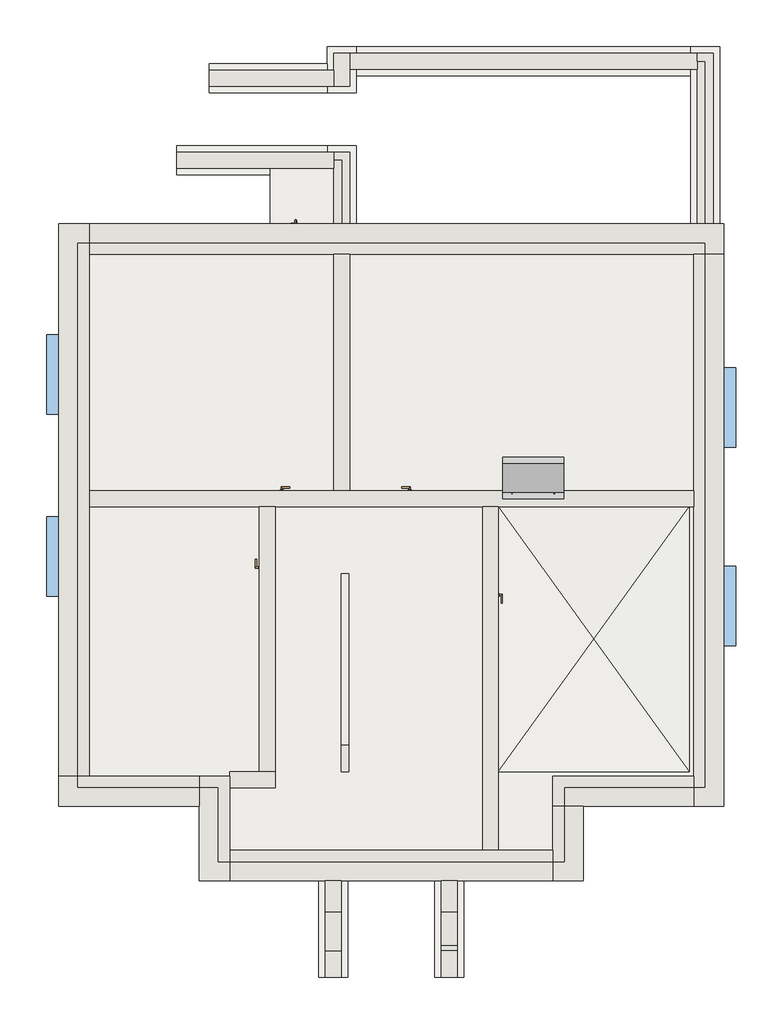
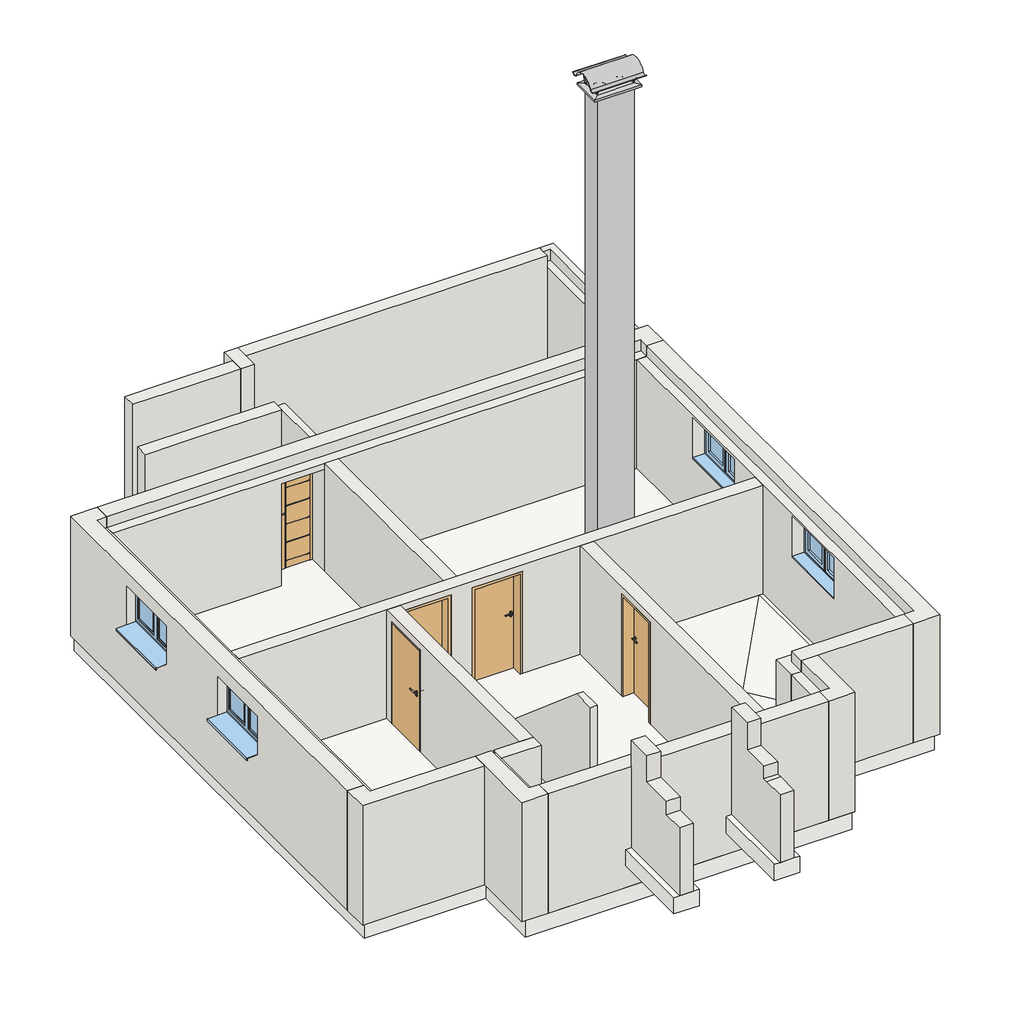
# Not in any storey: 22 walls, 8 footings, 5 doors, 4 windows, 1 proxy, 1 slab.
"""IFC4 building model written with IfcOpenShell, lengths in millimetres."""

from ifc_helpers import new_model, si_unit, frame, origin, place, context, project, spatial, polyline, outline, extrude, faceted_brep, transform, mapped, element, save
from components import proxy_360_x_650_x_6000_d_140_bfd82147, door_1b2f5746, door_21564633, ml_760_x_1886_faf6ffda, fe_2_tlg_konfigurierbar_1260_x_760_2a4c1234

model = new_model("IFC4")

# Units and contexts
model_context = context("Model", 3, world=origin())
ifc_project = project(units=[si_unit("LENGTHUNIT", "METRE", prefix="MILLI")], contexts=[model_context])

# Site, building
site = spatial("IfcSite", under=ifc_project)
building = spatial("IfcBuilding", under=site)

# Proxy
placement = place(None, origin())
proxy_360_x_650_x_6000_d_140_shape = proxy_360_x_650_x_6000_d_140_bfd82147(model_context)
element("IfcBuildingElementProxy", 1, Name="Kamin-03 zweizügig : 360 x 650 x 6000 D 140", ObjectType="Kamin-03 zweizügig : 360 x 650 x 6000 D 140", at=placement, inside=building, context=model_context, shape_type="MappedRepresentation", body=[
    mapped(proxy_360_x_650_x_6000_d_140_shape, transform((4890.0, 5931.2341615, -1200.0), x_axis=(1.0, 0.0, 0.0), y_axis=(0.0, 1.0, 0.0), z_axis=(0.0, 0.0, 1.0))),
])

# Doors
door_shape = door_1b2f5746(model_context)
element("IfcDoor", 2, ObjectType="TU DF 1 - Rahmenstock flächenbündig variabel : ML - H - 885 x 1885", at=placement, inside=building, context=model_context, shape_type="MappedRepresentation", body=[
    mapped(door_shape, transform((2682.5, 5620.0, -1200.0), x_axis=(-1.0, 0.0, 0.0), y_axis=(0.0, -1.0, 0.0), z_axis=(0.0, 0.0, 1.0))),
])
door_2_shape = door_21564633(model_context)
element("IfcDoor", 3, ObjectType="TU DF 1 - Rahmenstock flächenbündig variabel : ML - H - 885 x 1885", at=placement, inside=building, context=model_context, shape_type="MappedRepresentation", body=[
    mapped(door_2_shape, transform((4245.0, 3817.5, -1200.0), x_axis=(0.0, -1.0, 0.0), y_axis=(1.0, 0.0, 0.0), z_axis=(0.0, 0.0, 1.0))),
])
element("IfcDoor", 4, ObjectType="TU DF 1 - Rahmenstock flächenbündig variabel : ML - H - 885 x 1885", at=placement, inside=building, context=model_context, shape_type="MappedRepresentation", body=[
    mapped(door_2_shape, transform((870.0, 4922.5, -1200.0), x_axis=(0.0, 1.0, 0.0), y_axis=(-1.0, 0.0, 0.0), z_axis=(0.0, 0.0, 1.0))),
])
element("IfcDoor", 5, ObjectType="TU DF 1 - Rahmenstock flächenbündig variabel : ML - H - 885 x 1885", at=placement, inside=building, context=model_context, shape_type="MappedRepresentation", body=[
    mapped(door_2_shape, transform((1432.5, 5620.0, -1200.0), x_axis=(1.0, 0.0, 0.0), y_axis=(0.0, 1.0, 0.0), z_axis=(0.0, 0.0, 1.0))),
])
ml_760_x_1886_shape = ml_760_x_1886_faf6ffda(model_context)
element("IfcDoor", 6, ObjectType="TU DF 1 - Haustüre : ML -760 x 1886", at=placement, inside=building, context=model_context, shape_type="MappedRepresentation", body=[
    mapped(ml_760_x_1886_shape, transform((1495.0, 9545.0, -1200.0), x_axis=(-1.0, 0.0, 0.0), y_axis=(0.0, -1.0, 0.0), z_axis=(0.0, 0.0, 1.0))),
])

# Footings
element("IfcFooting", 7, ObjectType="STB 440 x 300", at=placement, inside=building, context=model_context, shape_type="Brep", body=[
    faceted_brep([(7715.0, 9715.0, -1200.0), (7275.0, 9715.0, -1200.0), (7275.0, 9715.0, -1500.0), (7715.0, 9715.0, -1500.0), (7715.0, 9775.0, -1200.0), (7715.0, 12455.0, -1200.0), (7275.0, 12455.0, -1200.0), (7275.0, 12015.0, -1200.0), (7275.0, 9775.0, -1200.0), (7275.0, 12455.0, -1500.0), (7275.0, 12015.0, -1500.0), (7275.0, 9775.0, -1500.0), (7715.0, 12455.0, -1500.0)], [[[0, 1, 2, 3]], [[0, 4, 5, 6, 7, 8, 1]], [[2, 1, 8, 7, 6, 9, 10, 11]], [[3, 2, 11, 10, 9, 12]], [[0, 3, 12, 5, 4]], [[6, 5, 12, 9]]]),
])
element("IfcFooting", 8, ObjectType="STB 440 x 300", at=placement, inside=building, context=model_context, shape_type="Brep", body=[
    faceted_brep([(2215.0, 9775.0, -1200.0), (2115.0, 9775.0, -1200.0), (1775.0, 9775.0, -1200.0), (1775.0, 9775.0, -1500.0), (2215.0, 9775.0, -1500.0), (2215.0, 10955.0, -1200.0), (1775.0, 10955.0, -1200.0), (1775.0, 10515.0, -1200.0), (1775.0, 10955.0, -1500.0), (1775.0, 10515.0, -1500.0), (2215.0, 10955.0, -1500.0)], [[[0, 1, 2, 3, 4]], [[0, 5, 6, 7, 2, 1]], [[3, 2, 7, 6, 8, 9]], [[4, 3, 9, 8, 10]], [[0, 4, 10, 5]], [[6, 5, 10, 8]]]),
])
element("IfcFooting", 9, ObjectType="STB 440 x 300", at=placement, inside=building, context=model_context, shape_type="Brep", body=[
    faceted_brep([(-500.0, 10515.0, -1500.0), (-500.0, 10515.0, -1200.0), (-500.0, 10615.0, -1200.0), (-500.0, 10855.0, -1200.0), (-500.0, 10955.0, -1200.0), (-500.0, 10955.0, -1500.0), (915.0, 10515.0, -1200.0), (1775.0, 10515.0, -1200.0), (1775.0, 10955.0, -1200.0), (915.0, 10515.0, -1500.0), (1775.0, 10515.0, -1500.0), (1775.0, 10955.0, -1500.0)], [[[0, 1, 2, 3, 4, 5]], [[4, 3, 2, 1, 6, 7, 8]], [[1, 0, 9, 10, 7, 6]], [[0, 5, 11, 10, 9]], [[5, 4, 8, 11]], [[8, 7, 10, 11]]]),
])
element("IfcFooting", 10, ObjectType="STB 440 x 300", at=placement, inside=building, context=model_context, shape_type="Brep", body=[
    faceted_brep([(1650.0, -160.0, -500.0), (1750.0, -160.0, -500.0), (1990.0, -160.0, -500.0), (2090.0, -160.0, -500.0), (2090.0, -160.0, -800.0), (1650.0, -160.0, -800.0), (2090.0, -1620.0, -500.0), (1990.0, -1620.0, -500.0), (1750.0, -1620.0, -500.0), (1650.0, -1620.0, -500.0), (1650.0, -1620.0, -800.0), (2090.0, -1620.0, -800.0)], [[[0, 1, 2, 3, 4, 5]], [[6, 7, 8, 9, 10, 11]], [[0, 9, 8, 7, 6, 3, 2, 1]], [[4, 3, 6, 11]], [[5, 4, 11, 10]], [[0, 5, 10, 9]]]),
])
element("IfcFooting", 11, ObjectType="STB 440 x 300", at=placement, inside=building, context=model_context, shape_type="Brep", body=[
    faceted_brep([(1775.0, 12455.0, -1200.0), (1775.0, 12195.0, -1200.0), (1775.0, 11755.0, -1200.0), (2215.0, 11755.0, -1200.0), (2215.0, 12015.0, -1200.0), (2215.0, 12455.0, -1200.0), (2215.0, 12455.0, -1500.0), (2215.0, 11755.0, -1500.0), (2215.0, 12015.0, -1500.0), (1775.0, 12455.0, -1500.0), (1775.0, 11755.0, -1500.0), (1775.0, 12195.0, -1500.0)], [[[0, 1, 2, 3, 4, 5]], [[6, 5, 4, 3, 7, 8]], [[9, 6, 8, 7, 10, 11]], [[0, 9, 11, 10, 2, 1]], [[3, 2, 10, 7]], [[0, 5, 6, 9]]]),
])
element("IfcFooting", 12, ObjectType="STB 440 x 300", at=placement, inside=building, context=model_context, shape_type="Brep", body=[
    faceted_brep([(-5.0, 11755.0, -1500.0), (-5.0, 11755.0, -1200.0), (-5.0, 11855.0, -1200.0), (-5.0, 12095.0, -1200.0), (-5.0, 12195.0, -1200.0), (-5.0, 12195.0, -1500.0), (1775.0, 11755.0, -1200.0), (1775.0, 12195.0, -1200.0), (1775.0, 11755.0, -1500.0), (1775.0, 12195.0, -1500.0)], [[[0, 1, 2, 3, 4, 5]], [[4, 3, 2, 1, 6, 7]], [[1, 0, 8, 6]], [[0, 5, 9, 8]], [[5, 4, 7, 9]], [[7, 6, 8, 9]]]),
])
element("IfcFooting", 13, ObjectType="STB 440 x 300", at=placement, inside=building, context=model_context, shape_type="SweptSolid", body=[
    extrude(outline(polyline([(7275.0, 12455.0), (7275.0, 12015.0), (2215.0, 12015.0), (2215.0, 12455.0), (7275.0, 12455.0)])), frame((0.0, 0.0, -1500.0), z_axis=(0.0, 0.0, 1.0), x_axis=(1.0, 0.0, 0.0)), (0.0, 0.0, 1.0), 300.0),
])
element("IfcFooting", 14, ObjectType="STB 440 x 300", at=placement, inside=building, context=model_context, shape_type="Brep", body=[
    faceted_brep([(3400.0, -160.0, -500.0), (3500.0, -160.0, -500.0), (3740.0, -160.0, -500.0), (3840.0, -160.0, -500.0), (3840.0, -160.0, -800.0), (3400.0, -160.0, -800.0), (3840.0, -1620.0, -500.0), (3740.0, -1620.0, -500.0), (3500.0, -1620.0, -500.0), (3400.0, -1620.0, -500.0), (3400.0, -1620.0, -800.0), (3840.0, -1620.0, -800.0)], [[[0, 1, 2, 3, 4, 5]], [[6, 7, 8, 9, 10, 11]], [[0, 9, 8, 7, 6, 3, 2, 1]], [[4, 3, 6, 11]], [[5, 4, 11, 10]], [[0, 5, 10, 9]]]),
])

# Slab
element("IfcSlab", 15, ObjectType="STB 300", at=placement, inside=building, context=model_context, shape_type="Brep", body=[
    faceted_brep([(-2225.0, 9775.0, -1500.0), (915.0, 9775.0, -1500.0), (915.0, 10615.0, -1500.0), (1875.0, 10615.0, -1500.0), (1875.0, 9775.0, -1500.0), (7715.0, 9775.0, -1500.0), (7715.0, 1025.0, -1500.0), (5590.0, 1025.0, -1500.0), (5590.0, -160.0, -1500.0), (-100.0, -160.0, -1500.0), (-100.0, 1025.0, -1500.0), (-2225.0, 1025.0, -1500.0), (-2225.0, 9775.0, -1200.0), (915.0, 9775.0, -1200.0), (7715.0, 9775.0, -1200.0), (7715.0, 1025.0, -1200.0), (5590.0, 1025.0, -1200.0), (5590.0, -160.0, -1200.0), (-100.0, -160.0, -1200.0), (-100.0, 1025.0, -1200.0), (-2225.0, 1025.0, -1200.0), (1875.0, 9775.0, -1200.0), (1875.0, 10615.0, -1200.0), (915.0, 10615.0, -1200.0), (7250.0, 5500.0, -1200.0), (7250.0, 1490.0, -1200.0), (4365.0, 1490.0, -1200.0), (4365.0, 5500.0, -1200.0), (5807.5, 3495.0, -1260.0)], [[[0, 1, 2, 3, 4, 5, 6, 7, 8, 9, 10, 11]], [[1, 0, 12, 13]], [[6, 5, 14, 15]], [[7, 6, 15, 16]], [[8, 7, 16, 17]], [[9, 8, 17, 18]], [[10, 9, 18, 19]], [[11, 10, 19, 20]], [[0, 11, 20, 12]], [[20, 19, 18, 17, 16, 15, 14, 21, 22, 23, 13, 12], [24, 25, 26, 27]], [[26, 25, 28]], [[26, 28, 27]], [[25, 24, 28]], [[24, 27, 28]], [[2, 1, 13, 23]], [[3, 2, 23, 22]], [[4, 3, 22, 21]], [[5, 4, 21, 14]]]),
])

# Walls
element("IfcWall", 16, ObjectType="Ziegel+WD hart 300+160", at=placement, inside=building, context=model_context, shape_type="Brep", body=[
    faceted_brep([(300.0, -160.0, -1200.0), (300.0, 300.0, -1200.0), (300.0, 1250.0, -1200.0), (300.0, 1425.0, -1200.0), (300.0, 1425.0, 800.0), (300.0, 1250.0, 800.0), (300.0, 300.0, 800.0), (300.0, 125.0, 800.0), (300.0, 125.0, 1000.0), (300.0, -160.0, 1000.0), (-160.0, 1425.0, -1200.0), (-160.0, 965.0, -1200.0), (-160.0, -160.0, -1200.0), (-160.0, -160.0, 1000.0), (-160.0, 965.0, 1000.0), (-160.0, 1250.0, 1000.0), (-160.0, 1250.0, 800.0), (-160.0, 1425.0, 800.0), (125.0, 125.0, 1000.0), (125.0, 1250.0, 1000.0), (125.0, 1250.0, 800.0), (125.0, 125.0, 800.0)], [[[0, 1, 2, 3, 4, 5, 6, 7, 8, 9]], [[10, 11, 12, 13, 14, 15, 16, 17]], [[3, 2, 1, 0, 12, 11, 10]], [[13, 9, 8, 18, 19, 15, 14]], [[0, 9, 13, 12]], [[3, 10, 17, 4]], [[20, 21, 7, 6, 5, 4, 17, 16]], [[21, 18, 8, 7]], [[21, 20, 19, 18]], [[19, 20, 16, 15]]]),
])
element("IfcWall", 17, ObjectType="Ziegel+WD hart 300+160", at=placement, inside=building, context=model_context, shape_type="Brep", body=[
    faceted_brep([(-160.0, 1425.0, -1200.0), (-1825.0, 1425.0, -1200.0), (-2285.0, 1425.0, -1200.0), (-2285.0, 1425.0, 1000.0), (-2000.0, 1425.0, 1000.0), (-2000.0, 1425.0, 800.0), (-1825.0, 1425.0, 800.0), (-160.0, 1425.0, 800.0), (-2285.0, 965.0, -1200.0), (-160.0, 965.0, -1200.0), (-160.0, 965.0, 1000.0), (-2285.0, 965.0, 1000.0), (-160.0, 1250.0, 1000.0), (-2000.0, 1250.0, 1000.0), (-160.0, 1250.0, 800.0), (-2000.0, 1250.0, 800.0)], [[[0, 1, 2, 3, 4, 5, 6, 7]], [[8, 9, 10, 11]], [[2, 1, 0, 9, 8]], [[11, 10, 12, 13, 4, 3]], [[3, 2, 8, 11]], [[9, 0, 7, 14, 12, 10]], [[5, 15, 14, 7, 6]], [[15, 13, 12, 14]], [[13, 15, 5, 4]]]),
])
element("IfcWall", 18, ObjectType="Ziegel+WD hart 300+160", at=placement, inside=building, context=model_context, shape_type="Brep", body=[
    faceted_brep([(-1825.0, 1425.0, -1200.0), (-1825.0, 5500.0, -1200.0), (-1825.0, 5740.0, -1200.0), (-1825.0, 9315.0, -1200.0), (-1825.0, 9775.0, -1200.0), (-1825.0, 9775.0, 1000.0), (-1825.0, 9490.0, 1000.0), (-1825.0, 9490.0, 800.0), (-1825.0, 9315.0, 800.0), (-1825.0, 5740.0, 800.0), (-1825.0, 5500.0, 800.0), (-1825.0, 1425.0, 800.0), (-1825.0, 4115.0, 760.0), (-1825.0, 5375.0, 760.0), (-1825.0, 5375.0, 0.0), (-1825.0, 4115.0, 0.0), (-1825.0, 6865.0, 760.0), (-1825.0, 8125.0, 760.0), (-1825.0, 8125.0, 0.0), (-1825.0, 6865.0, 0.0), (-2285.0, 9775.0, -1200.0), (-2285.0, 1425.0, -1200.0), (-2285.0, 1425.0, 1000.0), (-2285.0, 9775.0, 1000.0), (-2285.0, 5345.0, 15.0), (-2285.0, 5345.0, 730.0), (-2285.0, 4145.0, 730.0), (-2285.0, 4145.0, 15.0), (-2285.0, 8095.0, 15.0), (-2285.0, 8095.0, 730.0), (-2285.0, 6895.0, 730.0), (-2285.0, 6895.0, 15.0), (-2000.0, 1425.0, 1000.0), (-2000.0, 9490.0, 1000.0), (-2000.0, 1425.0, 800.0), (-2125.0, 4115.0, 760.0), (-2125.0, 5375.0, 760.0), (-2125.0, 4115.0, 0.0), (-2125.0, 5375.0, 0.0), (-2125.0, 5345.0, 730.0), (-2125.0, 5345.0, 20.0), (-2125.0, 4145.0, 20.0), (-2125.0, 4145.0, 730.0), (-2000.0, 9490.0, 800.0), (-2125.0, 8125.0, 760.0), (-2125.0, 6865.0, 760.0), (-2125.0, 6865.0, 0.0), (-2125.0, 8125.0, 0.0), (-2125.0, 8095.0, 730.0), (-2125.0, 8095.0, 20.0), (-2125.0, 6895.0, 20.0), (-2125.0, 6895.0, 730.0)], [[[0, 1, 2, 3, 4, 5, 6, 7, 8, 9, 10, 11], [12, 13, 14, 15], [16, 17, 18, 19]], [[20, 21, 22, 23], [24, 25, 26, 27], [28, 29, 30, 31]], [[4, 3, 2, 1, 0, 21, 20]], [[23, 22, 32, 33, 6, 5]], [[22, 21, 0, 11, 34, 32]], [[5, 4, 20, 23]], [[35, 36, 13, 12]], [[37, 15, 14, 38]], [[35, 12, 15, 37]], [[13, 36, 38, 14]], [[36, 35, 37, 38], [39, 40, 41, 42]], [[40, 39, 25, 24]], [[41, 40, 24, 27]], [[42, 41, 27, 26]], [[39, 42, 26, 25]], [[43, 34, 11, 10, 9, 8, 7]], [[33, 43, 7, 6]], [[43, 33, 32, 34]], [[44, 17, 16, 45]], [[46, 19, 18, 47]], [[45, 16, 19, 46]], [[17, 44, 47, 18]], [[44, 45, 46, 47], [48, 49, 50, 51]], [[49, 48, 29, 28]], [[50, 49, 28, 31]], [[51, 50, 31, 30]], [[48, 51, 30, 29]]]),
])
element("IfcWall", 19, ObjectType="Ziegel+WD hart 300+160", at=placement, inside=building, context=model_context, shape_type="Brep", body=[
    faceted_brep([(7775.0, 9315.0, -1200.0), (7775.0, 9315.0, 1000.0), (7490.0, 9315.0, 1000.0), (7490.0, 9315.0, 800.0), (7315.0, 9315.0, 800.0), (2115.0, 9315.0, 800.0), (1875.0, 9315.0, 800.0), (-1825.0, 9315.0, 800.0), (-1825.0, 9315.0, -1200.0), (1115.0, 9315.0, -1200.0), (1115.0, 9315.0, 685.0), (1875.0, 9315.0, 685.0), (1875.0, 9315.0, -1200.0), (2115.0, 9315.0, -1200.0), (7315.0, 9315.0, -1200.0), (-1825.0, 9775.0, 1000.0), (7775.0, 9775.0, 1000.0), (7775.0, 9775.0, -1200.0), (1875.0, 9775.0, -1200.0), (1875.0, 9775.0, 685.0), (1115.0, 9775.0, 685.0), (1115.0, 9775.0, -1200.0), (-1825.0, 9775.0, -1200.0), (-1825.0, 9490.0, 1000.0), (7490.0, 9490.0, 1000.0), (-1825.0, 9490.0, 800.0), (7490.0, 9490.0, 800.0)], [[[0, 1, 2, 3, 4, 5, 6, 7, 8, 9, 10, 11, 12, 13, 14]], [[15, 16, 17, 18, 19, 20, 21, 22]], [[8, 22, 21, 9]], [[17, 0, 14, 13, 12, 18]], [[16, 15, 23, 24, 2, 1]], [[15, 22, 8, 7, 25, 23]], [[1, 0, 17, 16]], [[3, 26, 25, 7, 6, 5, 4]], [[26, 24, 23, 25]], [[24, 26, 3, 2]], [[19, 11, 10, 20]], [[20, 10, 9, 21]], [[11, 19, 18, 12]]]),
])
element("IfcWall", 20, ObjectType="Ziegel+WD hart 300+160", at=placement, inside=building, context=model_context, shape_type="Brep", body=[
    faceted_brep([(7315.0, 9315.0, -1200.0), (7315.0, 5740.0, -1200.0), (7315.0, 5500.0, -1200.0), (7315.0, 1425.0, -1200.0), (7315.0, 965.0, -1200.0), (7315.0, 965.0, 1000.0), (7315.0, 1250.0, 1000.0), (7315.0, 1250.0, 800.0), (7315.0, 1425.0, 800.0), (7315.0, 5500.0, 800.0), (7315.0, 5740.0, 800.0), (7315.0, 9315.0, 800.0), (7315.0, 4625.0, 760.0), (7315.0, 3365.0, 760.0), (7315.0, 3365.0, 0.0), (7315.0, 4625.0, 0.0), (7315.0, 7625.0, 760.0), (7315.0, 6365.0, 760.0), (7315.0, 6365.0, 0.0), (7315.0, 7625.0, 0.0), (7775.0, 965.0, -1200.0), (7775.0, 9315.0, -1200.0), (7775.0, 9315.0, 1000.0), (7775.0, 965.0, 1000.0), (7775.0, 3395.0, 15.0), (7775.0, 3395.0, 730.0), (7775.0, 4595.0, 730.0), (7775.0, 4595.0, 15.0), (7775.0, 6395.0, 15.0), (7775.0, 6395.0, 730.0), (7775.0, 7595.0, 730.0), (7775.0, 7595.0, 15.0), (7490.0, 9315.0, 800.0), (7490.0, 9315.0, 1000.0), (7615.0, 4625.0, 760.0), (7615.0, 3365.0, 760.0), (7615.0, 4625.0, 0.0), (7615.0, 3365.0, 0.0), (7615.0, 3395.0, 730.0), (7615.0, 3395.0, 20.0), (7615.0, 4595.0, 20.0), (7615.0, 4595.0, 730.0), (7490.0, 1250.0, 800.0), (7490.0, 1250.0, 1000.0), (7615.0, 6365.0, 760.0), (7615.0, 7625.0, 760.0), (7615.0, 7625.0, 0.0), (7615.0, 6365.0, 0.0), (7615.0, 6395.0, 730.0), (7615.0, 6395.0, 20.0), (7615.0, 7595.0, 20.0), (7615.0, 7595.0, 730.0)], [[[0, 1, 2, 3, 4, 5, 6, 7, 8, 9, 10, 11], [12, 13, 14, 15], [16, 17, 18, 19]], [[20, 21, 22, 23], [24, 25, 26, 27], [28, 29, 30, 31]], [[22, 21, 0, 11, 32, 33]], [[5, 4, 20, 23]], [[34, 35, 13, 12]], [[36, 15, 14, 37]], [[34, 12, 15, 36]], [[13, 35, 37, 14]], [[35, 34, 36, 37], [38, 39, 40, 41]], [[39, 38, 25, 24]], [[40, 39, 24, 27]], [[41, 40, 27, 26]], [[38, 41, 26, 25]], [[7, 42, 32, 11, 10, 9, 8]], [[42, 43, 33, 32]], [[43, 42, 7, 6]], [[44, 17, 16, 45]], [[46, 19, 18, 47]], [[45, 16, 19, 46]], [[17, 44, 47, 18]], [[44, 45, 46, 47], [48, 49, 50, 51]], [[49, 48, 29, 28]], [[50, 49, 28, 31]], [[51, 50, 31, 30]], [[48, 51, 30, 29]], [[4, 3, 2, 1, 0, 21, 20]], [[23, 22, 33, 43, 6, 5]]]),
])
element("IfcWall", 21, ObjectType="Ziegel+WD hart 300+160", at=placement, inside=building, context=model_context, shape_type="Brep", body=[
    faceted_brep([(7315.0, 1425.0, -1200.0), (5190.0, 1425.0, -1200.0), (5190.0, 1425.0, 800.0), (7315.0, 1425.0, 800.0), (5190.0, 965.0, -1200.0), (5650.0, 965.0, -1200.0), (7315.0, 965.0, -1200.0), (7315.0, 965.0, 1000.0), (5650.0, 965.0, 1000.0), (5365.0, 965.0, 1000.0), (5365.0, 965.0, 800.0), (5190.0, 965.0, 800.0), (7315.0, 1250.0, 1000.0), (5365.0, 1250.0, 1000.0), (7315.0, 1250.0, 800.0), (5365.0, 1250.0, 800.0)], [[[0, 1, 2, 3]], [[4, 5, 6, 7, 8, 9, 10, 11]], [[1, 0, 6, 5, 4]], [[9, 8, 7, 12, 13]], [[7, 6, 0, 3, 14, 12]], [[1, 4, 11, 2]], [[10, 15, 14, 3, 2, 11]], [[15, 13, 12, 14]], [[13, 15, 10, 9]]]),
])
element("IfcWall", 22, ObjectType="Ziegel+WD hart 300+160", at=placement, inside=building, context=model_context, shape_type="Brep", body=[
    faceted_brep([(5190.0, 965.0, -1200.0), (5190.0, 300.0, -1200.0), (5190.0, -160.0, -1200.0), (5190.0, -160.0, 1000.0), (5190.0, 125.0, 1000.0), (5190.0, 125.0, 800.0), (5190.0, 300.0, 800.0), (5190.0, 965.0, 800.0), (5650.0, -160.0, -1200.0), (5650.0, 965.0, -1200.0), (5650.0, 965.0, 1000.0), (5650.0, -160.0, 1000.0), (5365.0, 965.0, 1000.0), (5365.0, 125.0, 1000.0), (5365.0, 965.0, 800.0), (5365.0, 125.0, 800.0)], [[[0, 1, 2, 3, 4, 5, 6, 7]], [[8, 9, 10, 11]], [[2, 1, 0, 9, 8]], [[11, 10, 12, 13, 4, 3]], [[10, 9, 0, 7, 14, 12]], [[3, 2, 8, 11]], [[5, 15, 14, 7, 6]], [[15, 13, 12, 14]], [[13, 15, 5, 4]]]),
])
element("IfcWall", 23, ObjectType="Ziegel+WD hart 300+160", at=placement, inside=building, context=model_context, shape_type="SweptSolid", body=[
    extrude(outline(polyline([(300.0, -1200.0), (-160.0, -1200.0), (-160.0, 1000.0), (125.0, 1000.0), (125.0, 800.0), (300.0, 800.0), (300.0, -1200.0)])), frame((300.0, 0.0, 0.0), z_axis=(1.0, 0.0, 0.0), x_axis=(0.0, 1.0, 0.0)), (0.0, 0.0, 1.0), 4890.0),
])
element("IfcWall", 24, ObjectType="Klinker 240", at=placement, inside=building, context=model_context, shape_type="Brep", body=[
    faceted_brep([(7615.0, 9775.0, -1200.0), (7615.0, 12355.0, -1200.0), (7615.0, 12355.0, 0.0), (7615.0, 12355.0, 1000.0), (7615.0, 9775.0, 1000.0), (7615.0, 9775.0, 0.0), (7375.0, 12355.0, -1200.0), (7375.0, 12115.0, -1200.0), (7375.0, 9775.0, -1200.0), (7375.0, 9775.0, 0.0), (7375.0, 9775.0, 800.0), (7375.0, 12235.0, 800.0), (7375.0, 12235.0, 1000.0), (7375.0, 12355.0, 1000.0), (7495.0, 12235.0, 1000.0), (7495.0, 9775.0, 1000.0), (7495.0, 9775.0, 800.0), (7495.0, 12235.0, 800.0)], [[[0, 1, 2, 3, 4, 5]], [[6, 7, 8, 9, 10, 11, 12, 13]], [[1, 0, 8, 7, 6]], [[4, 3, 13, 12, 14, 15]], [[0, 5, 4, 15, 16, 10, 9, 8]], [[3, 2, 1, 6, 13]], [[16, 17, 11, 10]], [[17, 14, 12, 11]], [[14, 17, 16, 15]]]),
])
element("IfcWall", 25, ObjectType="Klinker 240", at=placement, inside=building, context=model_context, shape_type="Brep", body=[
    faceted_brep([(7375.0, 12355.0, -1200.0), (2115.0, 12355.0, -1200.0), (2115.0, 12355.0, 1000.0), (7375.0, 12355.0, 1000.0), (7375.0, 12115.0, -1200.0), (7375.0, 12115.0, 0.0), (7375.0, 12115.0, 1000.0), (2115.0, 12115.0, 1000.0), (2115.0, 12115.0, 0.0), (2115.0, 12115.0, -1200.0), (7375.0, 12235.0, 1000.0)], [[[0, 1, 2, 3]], [[4, 5, 6, 7, 8, 9]], [[1, 0, 4, 9]], [[3, 2, 7, 6, 10]], [[0, 3, 10, 6, 5, 4]], [[2, 1, 9, 8, 7]]]),
])
element("IfcWall", 26, ObjectType="Klinker 240", at=placement, inside=building, context=model_context, shape_type="Brep", body=[
    faceted_brep([(2115.0, 9775.0, -1200.0), (2115.0, 10855.0, -1200.0), (2115.0, 10855.0, 0.0), (2115.0, 10855.0, 800.0), (2115.0, 9775.0, 800.0), (2115.0, 9775.0, 0.0), (1875.0, 10855.0, -1200.0), (1875.0, 10615.0, -1200.0), (1875.0, 9775.0, -1200.0), (1875.0, 9775.0, 1000.0), (1875.0, 10615.0, 1000.0), (1875.0, 10735.0, 1000.0), (1875.0, 10735.0, 800.0), (1875.0, 10855.0, 800.0), (1995.0, 9775.0, 1000.0), (1995.0, 10735.0, 1000.0), (1995.0, 9775.0, 800.0), (1995.0, 10735.0, 800.0)], [[[0, 1, 2, 3, 4, 5]], [[6, 7, 8, 9, 10, 11, 12, 13]], [[1, 0, 8, 7, 6]], [[11, 10, 9, 14, 15]], [[9, 8, 0, 5, 4, 16, 14]], [[1, 6, 13, 3, 2]], [[12, 17, 16, 4, 3, 13]], [[17, 15, 14, 16]], [[15, 17, 12, 11]]]),
])
element("IfcWall", 27, ObjectType="Klinker 240", at=placement, inside=building, context=model_context, shape_type="Brep", body=[
    faceted_brep([(1875.0, 10855.0, -1200.0), (-500.0, 10855.0, -1200.0), (-500.0, 10855.0, 0.0), (-500.0, 10855.0, 1000.0), (615.0, 10855.0, 1000.0), (1875.0, 10855.0, 1000.0), (1875.0, 10855.0, 800.0), (1875.0, 10615.0, -1200.0), (1875.0, 10615.0, 1000.0), (615.0, 10615.0, 1000.0), (-500.0, 10615.0, 1000.0), (-500.0, 10615.0, 0.0), (-500.0, 10615.0, -1200.0), (915.0, 10615.0, -1200.0), (1875.0, 10735.0, 1000.0)], [[[0, 1, 2, 3, 4, 5, 6]], [[7, 8, 9, 10, 11, 12, 13]], [[1, 0, 7, 13, 12]], [[3, 2, 1, 12, 11, 10]], [[5, 4, 3, 10, 9, 8, 14]], [[0, 6, 5, 14, 8, 7]]]),
])
element("IfcWall", 28, ObjectType="Klinker 240", at=placement, inside=building, context=model_context, shape_type="Brep", body=[
    faceted_brep([(1875.0, 12355.0, -1200.0), (1875.0, 12095.0, -1200.0), (1875.0, 11855.0, -1200.0), (1875.0, 11855.0, 1000.0), (1875.0, 12095.0, 1000.0), (1875.0, 12355.0, 1000.0), (1875.0, 12355.0, 0.0), (2115.0, 12355.0, -1200.0), (2115.0, 12355.0, 1000.0), (2115.0, 12115.0, 1000.0), (2115.0, 11855.0, 1000.0), (2115.0, 11855.0, 0.0), (2115.0, 11855.0, -1200.0), (2115.0, 12115.0, -1200.0)], [[[0, 1, 2, 3, 4, 5, 6]], [[7, 8, 9, 10, 11, 12, 13]], [[2, 1, 0, 7, 13, 12]], [[5, 4, 3, 10, 9, 8]], [[0, 6, 5, 8, 7]], [[3, 2, 12, 11, 10]]]),
])
element("IfcWall", 29, ObjectType="Klinker 240", at=placement, inside=building, context=model_context, shape_type="Brep", body=[
    faceted_brep([(1875.0, 12095.0, -1200.0), (-5.0, 12095.0, -1200.0), (-5.0, 12095.0, 0.0), (-5.0, 12095.0, 1000.0), (615.0, 12095.0, 1000.0), (1875.0, 12095.0, 1000.0), (1875.0, 12095.0, 0.0), (-5.0, 11855.0, -1200.0), (1875.0, 11855.0, -1200.0), (1875.0, 11855.0, 800.0), (1875.0, 11855.0, 1000.0), (1620.0, 11855.0, 1000.0), (615.0, 11855.0, 1000.0), (-5.0, 11855.0, 1000.0), (-5.0, 11855.0, 0.0)], [[[0, 1, 2, 3, 4, 5, 6]], [[7, 8, 9, 10, 11, 12, 13, 14]], [[0, 6, 5, 10, 9, 8]], [[1, 0, 8, 7]], [[3, 2, 1, 7, 14, 13]], [[5, 4, 3, 13, 12, 11, 10]]]),
])
element("IfcWall", 30, ObjectType="Klinker 240", at=placement, inside=building, context=model_context, shape_type="Brep", body=[
    faceted_brep([(1750.0, -160.0, -500.0), (1750.0, -1620.0, -500.0), (1750.0, -1620.0, 0.0), (1750.0, -1620.0, 750.0), (1750.0, -1220.0, 750.0), (1750.0, -1220.0, 1000.0), (1750.0, -630.0, 1000.0), (1750.0, -630.0, 1480.0), (1750.0, -160.0, 1480.0), (1750.0, -160.0, 1000.0), (1750.0, -160.0, 0.0), (1990.0, -160.0, -500.0), (1990.0, -160.0, 0.0), (1990.0, -160.0, 1000.0), (1990.0, -160.0, 1480.0), (1990.0, -630.0, 1480.0), (1990.0, -630.0, 1000.0), (1990.0, -1220.0, 1000.0), (1990.0, -1220.0, 750.0), (1990.0, -1620.0, 750.0), (1990.0, -1620.0, 0.0), (1990.0, -1620.0, -500.0)], [[[0, 1, 2, 3, 4, 5, 6, 7, 8, 9, 10]], [[11, 12, 13, 14, 15, 16, 17, 18, 19, 20, 21]], [[1, 0, 11, 21]], [[3, 2, 1, 21, 20, 19]], [[6, 5, 17, 16]], [[4, 3, 19, 18]], [[5, 4, 18, 17]], [[7, 6, 16, 15]], [[8, 7, 15, 14]], [[9, 8, 14, 13, 12, 11, 0, 10]]]),
])
element("IfcWall", 31, ObjectType="Klinker 240", at=placement, inside=building, context=model_context, shape_type="Brep", body=[
    faceted_brep([(3500.0, -160.0, -500.0), (3500.0, -1620.0, -500.0), (3500.0, -1620.0, 0.0), (3500.0, -1620.0, 750.0), (3500.0, -1220.0, 750.0), (3500.0, -1130.0, 750.0), (3500.0, -1130.0, 974.3773554), (3500.0, -630.0, 974.3773554), (3500.0, -630.0, 1474.3773554), (3500.0, -160.0, 1474.3773554), (3500.0, -160.0, 974.3773554), (3500.0, -160.0, 0.0), (3740.0, -160.0, -500.0), (3740.0, -160.0, 0.0), (3740.0, -160.0, 974.3773554), (3740.0, -160.0, 1474.3773554), (3740.0, -630.0, 1474.3773554), (3740.0, -630.0, 974.3773554), (3740.0, -1130.0, 974.3773554), (3740.0, -1130.0, 750.0), (3740.0, -1220.0, 750.0), (3740.0, -1620.0, 750.0), (3740.0, -1620.0, 0.0), (3740.0, -1620.0, -500.0)], [[[0, 1, 2, 3, 4, 5, 6, 7, 8, 9, 10, 11]], [[12, 13, 14, 15, 16, 17, 18, 19, 20, 21, 22, 23]], [[1, 0, 12, 23]], [[3, 2, 1, 23, 22, 21]], [[4, 3, 21, 20]], [[5, 4, 20, 19]], [[6, 5, 19, 18]], [[7, 6, 18, 17]], [[8, 7, 17, 16]], [[9, 8, 16, 15]], [[10, 9, 15, 14, 13, 12, 0, 11]]]),
])
element("IfcWall", 32, ObjectType="Ziegel 115", at=placement, inside=building, context=model_context, shape_type="SweptSolid", body=[
    extrude(outline(polyline([(4490.0, -1200.0), (1490.0, -1200.0), (1490.0, 1000.0), (1901.7647059, 1000.0), (4490.0, -1200.0)])), frame((1990.0, 0.0, 0.0), z_axis=(1.0, 0.0, 0.0), x_axis=(0.0, 1.0, 0.0)), (0.0, 0.0, 1.0), 115.0),
])
element("IfcWall", 33, ObjectType="Ziegel 240", at=placement, inside=building, context=model_context, shape_type="Brep", body=[
    faceted_brep([(-1825.0, 5500.0, 800.0), (-1825.0, 5500.0, -1200.0), (750.0, 5500.0, -1200.0), (990.0, 5500.0, -1200.0), (990.0, 5500.0, 685.0), (1875.0, 5500.0, 685.0), (1875.0, 5500.0, -1200.0), (2240.0, 5500.0, -1200.0), (2240.0, 5500.0, 685.0), (3125.0, 5500.0, 685.0), (3125.0, 5500.0, -1200.0), (7315.0, 5500.0, -1200.0), (7315.0, 5500.0, 800.0), (990.0, 5500.0, 800.0), (750.0, 5500.0, 800.0), (-1825.0, 5740.0, -1200.0), (-1825.0, 5740.0, 800.0), (1875.0, 5740.0, 800.0), (2115.0, 5740.0, 800.0), (7315.0, 5740.0, 800.0), (7315.0, 5740.0, -1200.0), (3125.0, 5740.0, -1200.0), (3125.0, 5740.0, 685.0), (2240.0, 5740.0, 685.0), (2240.0, 5740.0, -1200.0), (2115.0, 5740.0, -1200.0), (1875.0, 5740.0, -1200.0), (1875.0, 5740.0, 685.0), (990.0, 5740.0, 685.0), (990.0, 5740.0, -1200.0)], [[[0, 1, 2, 3, 4, 5, 6, 7, 8, 9, 10, 11, 12, 13, 14]], [[15, 16, 17, 18, 19, 20, 21, 22, 23, 24, 25, 26, 27, 28, 29]], [[1, 15, 29, 3, 2]], [[20, 11, 10, 21]], [[24, 7, 6, 26, 25]], [[1, 0, 16, 15]], [[12, 11, 20, 19]], [[8, 7, 24, 23]], [[10, 9, 22, 21]], [[9, 8, 23, 22]], [[0, 14, 13, 12, 19, 18, 17, 16]], [[5, 27, 26, 6]], [[28, 4, 3, 29]], [[27, 5, 4, 28]]]),
])
element("IfcWall", 34, ObjectType="Ziegel 240", at=placement, inside=building, context=model_context, shape_type="Brep", body=[
    faceted_brep([(300.0, 1250.0, -1200.0), (990.0, 1250.0, -1200.0), (990.0, 1250.0, 800.0), (300.0, 1250.0, 800.0), (300.0, 1490.0, -1200.0), (300.0, 1490.0, 800.0), (750.0, 1490.0, 800.0), (990.0, 1490.0, 800.0), (990.0, 1490.0, -1200.0), (750.0, 1490.0, -1200.0), (300.0, 1425.0, -1200.0), (300.0, 1425.0, 800.0)], [[[0, 1, 2, 3]], [[4, 5, 6, 7, 8, 9]], [[1, 0, 10, 4, 9, 8]], [[0, 3, 11, 5, 4, 10]], [[3, 2, 7, 6, 5, 11]], [[2, 1, 8, 7]]]),
])
element("IfcWall", 35, ObjectType="Ziegel 240", at=placement, inside=building, context=model_context, shape_type="Brep", body=[
    faceted_brep([(990.0, 5500.0, -1200.0), (990.0, 5500.0, 685.0), (990.0, 5500.0, 800.0), (990.0, 4490.0, 800.0), (990.0, 1490.0, 800.0), (990.0, 1490.0, -1200.0), (990.0, 4480.0, -1200.0), (990.0, 4480.0, 685.0), (990.0, 5365.0, 685.0), (990.0, 5365.0, -1200.0), (750.0, 1490.0, 800.0), (750.0, 5500.0, 800.0), (750.0, 5500.0, -1200.0), (750.0, 5365.0, -1200.0), (750.0, 5365.0, 685.0), (750.0, 4480.0, 685.0), (750.0, 4480.0, -1200.0), (750.0, 1490.0, -1200.0)], [[[0, 1, 2, 3, 4, 5, 6, 7, 8, 9]], [[10, 11, 12, 13, 14, 15, 16, 17]], [[12, 0, 9, 13]], [[5, 17, 16, 6]], [[2, 1, 0, 12, 11]], [[8, 14, 13, 9]], [[15, 7, 6, 16]], [[14, 8, 7, 15]], [[11, 10, 4, 3, 2]], [[5, 4, 10, 17]]]),
])
element("IfcWall", 36, ObjectType="Ziegel 240", at=placement, inside=building, context=model_context, shape_type="SweptSolid", body=[
    extrude(outline(polyline([(5500.0, 800.0), (5500.0, -1200.0), (4260.0, -1200.0), (4260.0, 685.0), (3375.0, 685.0), (3375.0, -1200.0), (300.0, -1200.0), (300.0, 800.0), (5500.0, 800.0)])), frame((4125.0, 0.0, 0.0), z_axis=(1.0, 0.0, 0.0), x_axis=(0.0, 1.0, 0.0)), (0.0, 0.0, 1.0), 240.0),
])
element("IfcWall", 37, ObjectType="Ziegel 240", at=placement, inside=building, context=model_context, shape_type="Brep", body=[
    faceted_brep([(1875.0, 9315.0, -1200.0), (1875.0, 5740.0, -1200.0), (1875.0, 5740.0, 685.0), (1875.0, 5740.0, 800.0), (1875.0, 9315.0, 800.0), (1875.0, 9315.0, 685.0), (2115.0, 9315.0, -1200.0), (2115.0, 9315.0, 800.0), (2115.0, 5740.0, 800.0), (2115.0, 5740.0, -1200.0)], [[[0, 1, 2, 3, 4, 5]], [[6, 7, 8, 9]], [[1, 0, 6, 9]], [[0, 5, 4, 7, 6]], [[3, 2, 1, 9, 8]], [[4, 3, 8, 7]]]),
])

# Windows
fe_2_tlg_konfigurierbar_1260_x_760_shape = fe_2_tlg_konfigurierbar_1260_x_760_2a4c1234(model_context)
element("IfcWindow", 38, ObjectType="FE 2 tlg - konfigurierbar : 1260 x 760", at=placement, inside=building, context=model_context, shape_type="MappedRepresentation", body=[
    mapped(fe_2_tlg_konfigurierbar_1260_x_760_shape, transform((-2055.0, 4745.0, -850.0), x_axis=(0.0, 1.0, 0.0), y_axis=(-1.0, 0.0, 0.0), z_axis=(0.0, 0.0, 1.0))),
])
element("IfcWindow", 39, ObjectType="FE 2 tlg - konfigurierbar : 1260 x 760", at=placement, inside=building, context=model_context, shape_type="MappedRepresentation", body=[
    mapped(fe_2_tlg_konfigurierbar_1260_x_760_shape, transform((7545.0, 3995.0, -850.0), x_axis=(0.0, -1.0, 0.0), y_axis=(1.0, 0.0, 0.0), z_axis=(0.0, 0.0, 1.0))),
])
element("IfcWindow", 40, ObjectType="FE 2 tlg - konfigurierbar : 1260 x 760", at=placement, inside=building, context=model_context, shape_type="MappedRepresentation", body=[
    mapped(fe_2_tlg_konfigurierbar_1260_x_760_shape, transform((7545.0, 6995.0, -850.0), x_axis=(0.0, -1.0, 0.0), y_axis=(1.0, 0.0, 0.0), z_axis=(0.0, 0.0, 1.0))),
])
element("IfcWindow", 41, ObjectType="FE 2 tlg - konfigurierbar : 1260 x 760", at=placement, inside=building, context=model_context, shape_type="MappedRepresentation", body=[
    mapped(fe_2_tlg_konfigurierbar_1260_x_760_shape, transform((-2055.0, 7495.0, -850.0), x_axis=(0.0, 1.0, 0.0), y_axis=(-1.0, 0.0, 0.0), z_axis=(0.0, 0.0, 1.0))),
])

save(model, "model.ifc")
